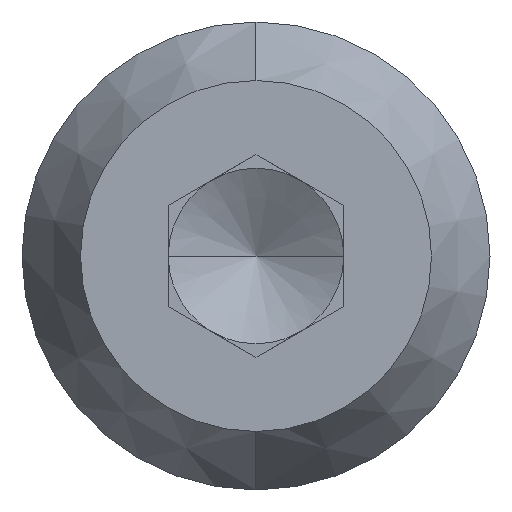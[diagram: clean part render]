
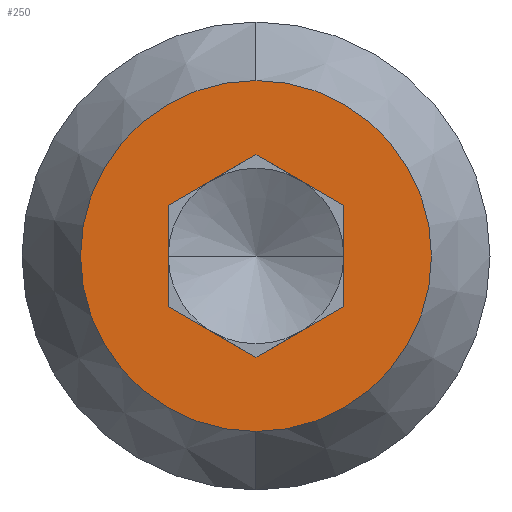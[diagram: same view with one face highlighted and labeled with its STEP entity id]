
A CAD part, left-side view. The second image highlights one B-rep face of the part: STEP entity #250.
In plain terms, the highlighted planar face has unit normal (-1, 0, 0).
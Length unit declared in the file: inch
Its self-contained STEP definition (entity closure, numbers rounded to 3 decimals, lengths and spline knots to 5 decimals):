
#118 = VERTEX_POINT ( 'NONE', #477 ) ;
#119 = VERTEX_POINT ( 'NONE', #476 ) ;
#197 = EDGE_CURVE ( 'NONE', #118, #119, #640, .T. ) ;
#237 = ORIENTED_EDGE ( 'NONE', *, *, #238, .F. ) ;
#238 = EDGE_CURVE ( 'NONE', #239, #317, #729, .T. ) ;
#239 = VERTEX_POINT ( 'NONE', #725 ) ;
#240 = ORIENTED_EDGE ( 'NONE', *, *, #241, .F. ) ;
#241 = EDGE_CURVE ( 'NONE', #255, #239, #787, .T. ) ;
#242 = EDGE_LOOP ( 'NONE', ( #243, #245 ) ) ;
#243 = ORIENTED_EDGE ( 'NONE', *, *, #244, .T. ) ;
#244 = EDGE_CURVE ( 'NONE', #119, #118, #783, .T. ) ;
#245 = ORIENTED_EDGE ( 'NONE', *, *, #197, .T. ) ;
#250 = ADVANCED_FACE ( 'NONE', ( #767, #766 ), #765, .F. ) ;
#251 = EDGE_LOOP ( 'NONE', ( #252, #256, #259, #315, #237, #240 ) ) ;
#252 = ORIENTED_EDGE ( 'NONE', *, *, #253, .F. ) ;
#253 = EDGE_CURVE ( 'NONE', #254, #255, #763, .T. ) ;
#254 = VERTEX_POINT ( 'NONE', #755 ) ;
#255 = VERTEX_POINT ( 'NONE', #756 ) ;
#256 = ORIENTED_EDGE ( 'NONE', *, *, #257, .F. ) ;
#257 = EDGE_CURVE ( 'NONE', #258, #254, #822, .T. ) ;
#258 = VERTEX_POINT ( 'NONE', #818 ) ;
#259 = ORIENTED_EDGE ( 'NONE', *, *, #260, .F. ) ;
#260 = EDGE_CURVE ( 'NONE', #261, #258, #817, .T. ) ;
#261 = VERTEX_POINT ( 'NONE', #813 ) ;
#315 = ORIENTED_EDGE ( 'NONE', *, *, #316, .F. ) ;
#316 = EDGE_CURVE ( 'NONE', #317, #261, #877, .T. ) ;
#317 = VERTEX_POINT ( 'NONE', #873 ) ;
#476 = CARTESIAN_POINT ( 'NONE',  ( 0., 0., -0.375 ) ) ;
#477 = CARTESIAN_POINT ( 'NONE',  ( 0., 0., 0.375 ) ) ;
#631 = DIRECTION ( 'NONE',  ( 0., 0., -1. ) ) ;
#632 = DIRECTION ( 'NONE',  ( -1., 0., 0. ) ) ;
#633 = CARTESIAN_POINT ( 'NONE',  ( 0., 0., 0. ) ) ;
#634 = AXIS2_PLACEMENT_3D ( 'NONE', #633, #632, #631 ) ;
#640 = CIRCLE ( 'NONE', #634, 0.375 ) ;
#725 = CARTESIAN_POINT ( 'NONE',  ( 0., 0.1875, -0.10825 ) ) ;
#726 = DIRECTION ( 'NONE',  ( 0., -0.866, -0.5 ) ) ;
#727 = VECTOR ( 'NONE', #726, 39.37008 ) ;
#728 = CARTESIAN_POINT ( 'NONE',  ( 0., 0.1875, -0.10825 ) ) ;
#729 = LINE ( 'NONE', #728, #727 ) ;
#755 = CARTESIAN_POINT ( 'NONE',  ( 0., 0., 0.21651 ) ) ;
#756 = CARTESIAN_POINT ( 'NONE',  ( 0., 0.1875, 0.10825 ) ) ;
#757 = DIRECTION ( 'NONE',  ( 0., 0.866, -0.5 ) ) ;
#758 = VECTOR ( 'NONE', #757, 39.37008 ) ;
#759 = CARTESIAN_POINT ( 'NONE',  ( 0., 0., 0.21651 ) ) ;
#760 = DIRECTION ( 'NONE',  ( 0., 0., -1. ) ) ;
#761 = DIRECTION ( 'NONE',  ( 1., 0., 0. ) ) ;
#762 = CARTESIAN_POINT ( 'NONE',  ( 0., 0., 0. ) ) ;
#763 = LINE ( 'NONE', #759, #758 ) ;
#764 = AXIS2_PLACEMENT_3D ( 'NONE', #762, #761, #760 ) ;
#765 = PLANE ( 'NONE',  #764 ) ;
#766 = FACE_OUTER_BOUND ( 'NONE', #242, .T. ) ;
#767 = FACE_BOUND ( 'NONE', #251, .T. ) ;
#779 = DIRECTION ( 'NONE',  ( 0., 0., -1. ) ) ;
#780 = DIRECTION ( 'NONE',  ( -1., 0., 0. ) ) ;
#781 = CARTESIAN_POINT ( 'NONE',  ( 0., 0., 0. ) ) ;
#782 = AXIS2_PLACEMENT_3D ( 'NONE', #781, #780, #779 ) ;
#783 = CIRCLE ( 'NONE', #782, 0.375 ) ;
#784 = DIRECTION ( 'NONE',  ( 0., 0., -1. ) ) ;
#785 = VECTOR ( 'NONE', #784, 39.37008 ) ;
#786 = CARTESIAN_POINT ( 'NONE',  ( 0., 0.1875, 0.10825 ) ) ;
#787 = LINE ( 'NONE', #786, #785 ) ;
#813 = CARTESIAN_POINT ( 'NONE',  ( 0., -0.1875, -0.10825 ) ) ;
#814 = DIRECTION ( 'NONE',  ( 0., 0., 1. ) ) ;
#815 = VECTOR ( 'NONE', #814, 39.37008 ) ;
#816 = CARTESIAN_POINT ( 'NONE',  ( 0., -0.1875, -0.10825 ) ) ;
#817 = LINE ( 'NONE', #816, #815 ) ;
#818 = CARTESIAN_POINT ( 'NONE',  ( 0., -0.1875, 0.10825 ) ) ;
#819 = DIRECTION ( 'NONE',  ( 0., 0.866, 0.5 ) ) ;
#820 = VECTOR ( 'NONE', #819, 39.37008 ) ;
#821 = CARTESIAN_POINT ( 'NONE',  ( 0., -0.1875, 0.10825 ) ) ;
#822 = LINE ( 'NONE', #821, #820 ) ;
#873 = CARTESIAN_POINT ( 'NONE',  ( 0., 0., -0.21651 ) ) ;
#874 = DIRECTION ( 'NONE',  ( 0., -0.866, 0.5 ) ) ;
#875 = VECTOR ( 'NONE', #874, 39.37008 ) ;
#876 = CARTESIAN_POINT ( 'NONE',  ( 0., 0., -0.21651 ) ) ;
#877 = LINE ( 'NONE', #876, #875 ) ;
